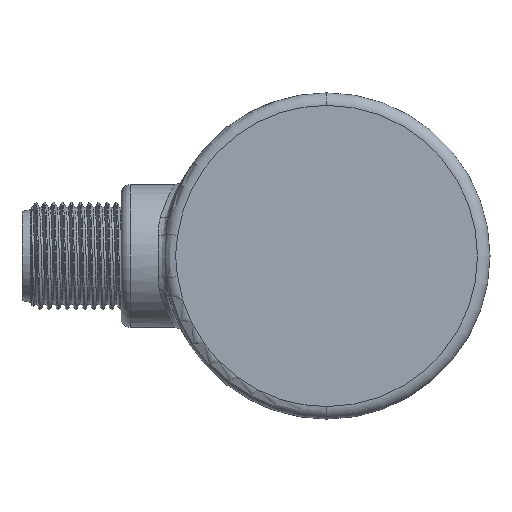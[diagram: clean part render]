
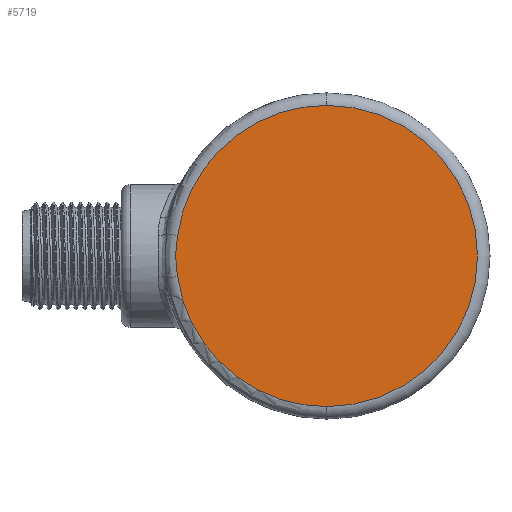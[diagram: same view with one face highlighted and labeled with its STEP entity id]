
A CAD part, front view. The second image highlights one B-rep face of the part: STEP entity #5719.
In plain terms, the highlighted planar face has unit normal (0, -1, 0).
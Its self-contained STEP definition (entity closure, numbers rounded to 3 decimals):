
#96 = CARTESIAN_POINT ( 'NONE',  ( -16.691, 0., 2.306 ) ) ;
#263 = DIRECTION ( 'NONE',  ( 0., 0., -1. ) ) ;
#990 = EDGE_CURVE ( 'NONE', #6485, #13152, #7076, .T. ) ;
#1614 = CARTESIAN_POINT ( 'NONE',  ( 0., 0., 16.85 ) ) ;
#1901 = CARTESIAN_POINT ( 'NONE',  ( -18.25, 0., 0. ) ) ;
#2029 = AXIS2_PLACEMENT_3D ( 'NONE', #11988, #11141, #2620 ) ;
#2164 = CARTESIAN_POINT ( 'NONE',  ( -16.744, 0., 1.923 ) ) ;
#2620 = DIRECTION ( 'NONE',  ( 0., 0., -1. ) ) ;
#3380 = DIRECTION ( 'NONE',  ( 0., -1., 0. ) ) ;
#3395 = EDGE_CURVE ( 'NONE', #8351, #6485, #7787, .T. ) ;
#4571 = CARTESIAN_POINT ( 'NONE',  ( -16.908, 0., -0.382 ) ) ;
#4944 = FACE_OUTER_BOUND ( 'NONE', #10755, .T. ) ;
#5026 = B_SPLINE_CURVE_WITH_KNOTS ( 'NONE', 3,
 ( #12891, #2164, #8423, #7165, #9595, #4571, #15248, #6932, #11758, #8345 ),
 .UNSPECIFIED., .F., .F.,
 ( 4, 2, 2, 2, 4 ),
 ( 0., 0.001, 0.002, 0.003, 0.005 ),
 .UNSPECIFIED. ) ;
#5064 = CARTESIAN_POINT ( 'NONE',  ( -16.691, 0., -2.306 ) ) ;
#5330 = AXIS2_PLACEMENT_3D ( 'NONE', #8630, #14740, #263 ) ;
#5719 = ADVANCED_FACE ( 'NONE', ( #4944 ), #14618, .T. ) ;
#6043 = DIRECTION ( 'NONE',  ( 0., 0., -1. ) ) ;
#6485 = VERTEX_POINT ( 'NONE', #13445 ) ;
#6925 = ORIENTED_EDGE ( 'NONE', *, *, #3395, .T. ) ;
#6932 = CARTESIAN_POINT ( 'NONE',  ( -16.801, 0., -1.539 ) ) ;
#7064 = AXIS2_PLACEMENT_3D ( 'NONE', #1901, #15142, #11263 ) ;
#7076 = CIRCLE ( 'NONE', #5330, 16.85 ) ;
#7165 = CARTESIAN_POINT ( 'NONE',  ( -16.883, 0., 0.773 ) ) ;
#7787 = CIRCLE ( 'NONE', #2029, 16.85 ) ;
#8345 = CARTESIAN_POINT ( 'NONE',  ( -16.691, 0., -2.306 ) ) ;
#8351 = VERTEX_POINT ( 'NONE', #5064 ) ;
#8423 = CARTESIAN_POINT ( 'NONE',  ( -16.801, 0., 1.54 ) ) ;
#8630 = CARTESIAN_POINT ( 'NONE',  ( 0., 0., 0. ) ) ;
#8729 = VERTEX_POINT ( 'NONE', #96 ) ;
#9595 = CARTESIAN_POINT ( 'NONE',  ( -16.908, 0., 0.388 ) ) ;
#10755 = EDGE_LOOP ( 'NONE', ( #15024, #6925, #12142, #14480 ) ) ;
#11141 = DIRECTION ( 'NONE',  ( 0., -1., 0. ) ) ;
#11263 = DIRECTION ( 'NONE',  ( 0., 0., -1. ) ) ;
#11758 = CARTESIAN_POINT ( 'NONE',  ( -16.744, 0., -1.922 ) ) ;
#11988 = CARTESIAN_POINT ( 'NONE',  ( 0., 0., 0. ) ) ;
#12098 = EDGE_CURVE ( 'NONE', #8729, #8351, #5026, .T. ) ;
#12142 = ORIENTED_EDGE ( 'NONE', *, *, #990, .T. ) ;
#12317 = CIRCLE ( 'NONE', #14326, 16.85 ) ;
#12891 = CARTESIAN_POINT ( 'NONE',  ( -16.691, 0., 2.306 ) ) ;
#13119 = CARTESIAN_POINT ( 'NONE',  ( 0., 0., 0. ) ) ;
#13152 = VERTEX_POINT ( 'NONE', #1614 ) ;
#13383 = EDGE_CURVE ( 'NONE', #13152, #8729, #12317, .T. ) ;
#13445 = CARTESIAN_POINT ( 'NONE',  ( 0., 0., -16.85 ) ) ;
#14326 = AXIS2_PLACEMENT_3D ( 'NONE', #13119, #3380, #6043 ) ;
#14480 = ORIENTED_EDGE ( 'NONE', *, *, #13383, .T. ) ;
#14618 = PLANE ( 'NONE',  #7064 ) ;
#14740 = DIRECTION ( 'NONE',  ( 0., -1., 0. ) ) ;
#15024 = ORIENTED_EDGE ( 'NONE', *, *, #12098, .T. ) ;
#15142 = DIRECTION ( 'NONE',  ( 0., -1., 0. ) ) ;
#15248 = CARTESIAN_POINT ( 'NONE',  ( -16.884, 0., -0.768 ) ) ;
